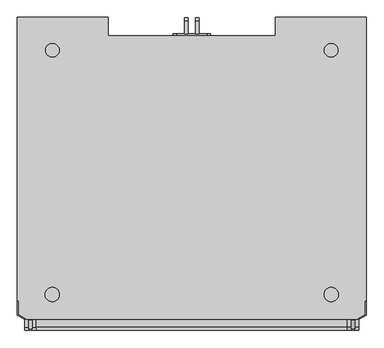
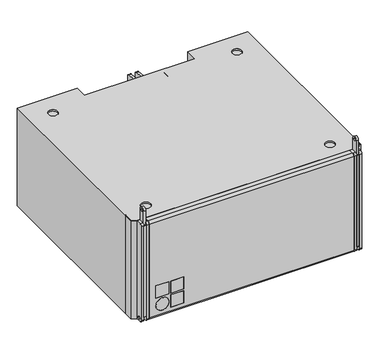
"""IFC4 building model written with IfcOpenShell, lengths in millimetres: proxy geometry, d&b SL-Series KSLi-SUB : KSLi-SUB."""

from ifc_helpers import new_model, si_unit, point, frame, frame_2d, origin, origin_with_axes, place, context, project, spatial, polyline, circle_curve, trimmed, segment, composite_curve, outline, extrude, source, transform, mapped, element, save
from ifc_brep_helpers import plane_surface, cylinder_surface, revolved_surface, advanced_brep


def communication_devices_f4fcb6de(model_context):
    return source(origin(), model_context, "Body", "SolidModel", [
        extrude(outline(polyline([(2084.5, -246.9994027), (2140.5, -246.9994027), (2140.5, -256.9994027), (2084.5, -256.9994027), (2084.5, -246.9994027)])), frame((0.0, 0.0, 90.5), z_axis=(0.0, 0.0, 1.0), x_axis=(1.0, 0.0, 0.0)), (0.0, 0.0, 1.0), 56.0),
        extrude(outline(polyline([(2148.5, -246.9994027), (2204.5, -246.9994027), (2204.5, -256.9994027), (2148.5, -256.9994027), (2148.5, -246.9994027)])), frame((0.0, 0.0, 90.5), z_axis=(0.0, 0.0, 1.0), x_axis=(1.0, 0.0, 0.0)), (0.0, 0.0, 1.0), 56.0),
        extrude(outline(polyline([(2148.5, -246.9994027), (2204.5, -246.9994027), (2204.5, -256.9994027), (2148.5, -256.9994027), (2148.5, -246.9994027)])), frame((0.0, 0.0, 26.5), z_axis=(0.0, 0.0, 1.0), x_axis=(1.0, 0.0, 0.0)), (0.0, 0.0, 1.0), 56.0),
        extrude(outline(composite_curve([segment(trimmed(circle_curve(frame_2d((54.5, 2112.5)), 28.0), [point((54.5, 2084.5))], [point((54.5, 2140.5))], False, "CARTESIAN"), True, "CONTINUOUS"), segment(trimmed(circle_curve(frame_2d((54.5, 2112.5)), 28.0), [point((54.5, 2140.5))], [point((54.5, 2084.5))], False, "CARTESIAN"), True, "CONTINUOUS")], self_intersect=False)), frame((0.0, -256.9994027, 0.0), z_axis=(0.0, 1.0, 0.0), x_axis=(0.0, 0.0, 1.0)), (0.0, 0.0, 1.0), 10.0),
        advanced_brep(
        [(3000.0, -171.9994027, 450.0), (3000.0, 639.2505973, 450.0), (2740.0, 639.2505973, 450.0), (2740.0, 586.2505973, 450.0), (2260.0, 586.2505973, 450.0), (2260.0, 639.2505973, 450.0), (2000.0, 639.2505973, 450.0), (2000.0, -171.9994027, 450.0), (2003.0, -171.9994027, 450.0), (2003.0, -211.9316714, 450.0), (2023.5, -223.7673519, 450.0), (2023.5, -225.4994027, 450.0), (2976.5, -225.4994027, 450.0), (2976.5, -223.7673519, 450.0), (2997.0, -211.9316714, 450.0), (2997.0, -171.9994027, 450.0), (2080.7290498, 545.3281728, 450.0), (2119.5480947, 545.3281728, 450.0), (2079.3260723, -154.6718272, 450.0), (2120.3260723, -154.6718272, 450.0), (2919.2709502, 545.3281728, 450.0), (2880.4519053, 545.3281728, 450.0), (2920.6739277, -154.6718272, 450.0), (2879.6739277, -154.6718272, 450.0), (2976.5, -225.4994027, 0.0), (2023.5, -225.4994027, 0.0), (3000.0, 639.2505973, 0.0), (2740.0, 639.2505973, 0.0), (2808.0, 639.2505973, 168.0), (2816.0, 639.2505973, 160.0), (2860.0, 639.2505973, 160.0), (2868.0, 639.2505973, 168.0), (2868.0, 639.2505973, 282.0), (2860.0, 639.2505973, 290.0), (2816.0, 639.2505973, 290.0), (2808.0, 639.2505973, 282.0), (2740.0, 586.2505973, 0.0), (2740.0, 586.2505973, 17.4568966), (2740.0, 561.2505973, 17.4568966), (2740.0, 561.2505973, 152.0689655), (2740.0, 586.2505973, 152.0689655), (2740.0, 586.2505973, 157.887931), (2740.0, 561.2505973, 157.887931), (2740.0, 561.2505973, 292.112069), (2740.0, 586.2505973, 292.112069), (2740.0, 586.2505973, 297.9310345), (2740.0, 561.2505973, 297.9310345), (2740.0, 561.2505973, 432.5431034), (2740.0, 586.2505973, 432.5431034), (2607.8420876, 561.2505973, 17.4568966), (2708.4158183, 561.2505973, 152.0689655), (2705.4996607, 561.2505973, 157.887931), (2604.92593, 561.2505973, 23.2758621), (2554.0, 561.2505973, 23.2758621), (2554.0, 561.2505973, 426.7241379), (2604.92593, 561.2505973, 426.7241379), (2705.4996607, 561.2505973, 292.112069), (2708.4158183, 561.2505973, 297.9310345), (2607.8420876, 561.2505973, 432.5431034), (2260.0, 561.2505973, 297.9310345), (2260.0, 561.2505973, 432.5431034), (2392.1579124, 561.2505973, 432.5431034), (2291.5841817, 561.2505973, 297.9310345), (2260.0, 561.2505973, 157.887931), (2260.0, 561.2505973, 292.112069), (2294.5003393, 561.2505973, 292.112069), (2395.07407, 561.2505973, 426.7241379), (2446.0, 561.2505973, 426.7241379), (2446.0, 561.2505973, 23.2758621), (2395.07407, 561.2505973, 23.2758621), (2294.5003393, 561.2505973, 157.887931), (2260.0, 561.2505973, 17.4568966), (2260.0, 561.2505973, 152.0689655), (2291.5841817, 561.2505973, 152.0689655), (2392.1579124, 561.2505973, 17.4568966), (2260.0, 639.2505973, 0.0), (2260.0, 586.2505973, 432.5431034), (2260.0, 586.2505973, 297.9310345), (2260.0, 586.2505973, 292.112069), (2260.0, 586.2505973, 157.887931), (2260.0, 586.2505973, 152.0689655), (2260.0, 586.2505973, 17.4568966), (2260.0, 586.2505973, 0.0), (2000.0, 639.2505973, 0.0), (2184.0, 639.2505973, 160.0), (2192.0, 639.2505973, 168.0), (2192.0, 639.2505973, 282.0), (2184.0, 639.2505973, 290.0), (2140.0, 639.2505973, 290.0), (2132.0, 639.2505973, 282.0), (2132.0, 639.2505973, 168.0), (2140.0, 639.2505973, 160.0), (2080.7290498, 545.3281728, 444.0), (2119.5480947, 545.3281728, 444.0), (2079.3260723, -154.6718272, 444.0), (2120.3260723, -154.6718272, 444.0), (2919.2709502, 545.3281728, 444.0), (2880.4519053, 545.3281728, 444.0), (2920.6739277, -154.6718272, 444.0), (2879.6739277, -154.6718272, 444.0), (2080.7290498, 545.3281728, 6.0), (2119.5480947, 545.3281728, 6.0), (2079.3260723, -154.6718272, 6.0), (2120.3260723, -154.6718272, 6.0), (2919.2709502, 545.3281728, 6.0), (2880.4519053, 545.3281728, 6.0), (2920.6739277, -154.6718272, 6.0), (2879.6739277, -154.6718272, 6.0), (3000.0, -171.9994027, 0.0), (2997.0, -171.9994027, 0.0), (2000.0, -171.9994027, 0.0), (2003.0, -171.9994027, 0.0), (2976.5, -223.7673519, 0.0), (2997.0, -211.9316714, 0.0), (2003.0, -211.9316714, 0.0), (2023.5, -223.7673519, 0.0), (2080.7290498, 545.3281728, 0.0), (2119.5480947, 545.3281728, 0.0), (2079.3260723, -154.6718272, 0.0), (2120.3260723, -154.6718272, 0.0), (2919.2709502, 545.3281728, 0.0), (2880.4519053, 545.3281728, 0.0), (2920.6739277, -154.6718272, 0.0), (2879.6739277, -154.6718272, 0.0), (2607.8420876, 586.2505973, 432.5431034), (2708.4158183, 586.2505973, 297.9310345), (2705.4996607, 586.2505973, 292.112069), (2604.92593, 586.2505973, 426.7241379), (2554.0, 586.2505973, 426.7241379), (2554.0, 586.2505973, 23.2758621), (2604.92593, 586.2505973, 23.2758621), (2705.4996607, 586.2505973, 157.887931), (2708.4158183, 586.2505973, 152.0689655), (2607.8420876, 586.2505973, 17.4568966), (2392.1579124, 586.2505973, 17.4568966), (2291.5841817, 586.2505973, 152.0689655), (2294.5003393, 586.2505973, 157.887931), (2395.07407, 586.2505973, 23.2758621), (2446.0, 586.2505973, 23.2758621), (2446.0, 586.2505973, 426.7241379), (2395.07407, 586.2505973, 426.7241379), (2294.5003393, 586.2505973, 292.112069), (2291.5841817, 586.2505973, 297.9310345), (2392.1579124, 586.2505973, 432.5431034), (2192.0, 634.2505973, 168.0), (2184.0, 634.2505973, 160.0), (2140.0, 634.2505973, 160.0), (2132.0, 634.2505973, 168.0), (2132.0, 634.2505973, 282.0), (2140.0, 634.2505973, 290.0), (2184.0, 634.2505973, 290.0), (2192.0, 634.2505973, 282.0), (2818.0, 619.2505973, 280.0), (2858.0, 619.2505973, 280.0), (2858.0, 619.2505973, 170.0), (2818.0, 619.2505973, 170.0), (2818.0, 634.2505973, 280.0), (2858.0, 634.2505973, 280.0), (2858.0, 634.2505973, 170.0), (2818.0, 634.2505973, 170.0), (2808.0, 634.2505973, 168.0), (2808.0, 634.2505973, 282.0), (2816.0, 634.2505973, 290.0), (2860.0, 634.2505973, 290.0), (2868.0, 634.2505973, 282.0), (2868.0, 634.2505973, 168.0), (2860.0, 634.2505973, 160.0), (2816.0, 634.2505973, 160.0)],
        [
            (0, 1),
            (1, 2),
            (2, 3),
            (3, 4),
            (4, 5),
            (5, 6),
            (6, 7),
            (7, 8),
            (8, 9),
            (9, 10),
            (10, 11),
            (11, 12),
            (12, 13),
            (13, 14),
            (14, 15),
            (15, 0),
            (16, 17, circle_curve(frame((2100.1385723, 545.3281728, 450.0), z_axis=(0.0, 0.0, -1.0), x_axis=(1.0, 0.0, 0.0)), 19.4095225)),
            (17, 16, circle_curve(frame((2100.1385723, 545.3281728, 450.0), z_axis=(0.0, 0.0, -1.0), x_axis=(1.0, 0.0, 0.0)), 19.4095225)),
            (18, 19, circle_curve(frame((2099.8260723, -154.6718272, 450.0), z_axis=(0.0, 0.0, -1.0), x_axis=(1.0, 0.0, 0.0)), 20.5)),
            (19, 18, circle_curve(frame((2099.8260723, -154.6718272, 450.0), z_axis=(0.0, 0.0, -1.0), x_axis=(1.0, 0.0, 0.0)), 20.5)),
            (20, 21, circle_curve(frame((2899.8614277, 545.3281728, 450.0), z_axis=(0.0, 0.0, -1.0), x_axis=(-1.0, 0.0, 0.0)), 19.4095225)),
            (21, 20, circle_curve(frame((2899.8614277, 545.3281728, 450.0), z_axis=(0.0, 0.0, -1.0), x_axis=(-1.0, 0.0, 0.0)), 19.4095225)),
            (22, 23, circle_curve(frame((2900.1739277, -154.6718272, 450.0), z_axis=(0.0, 0.0, -1.0), x_axis=(-1.0, 0.0, 0.0)), 20.5)),
            (23, 22, circle_curve(frame((2900.1739277, -154.6718272, 450.0), z_axis=(0.0, 0.0, -1.0), x_axis=(-1.0, 0.0, 0.0)), 20.5)),
            (24, 12),
            (11, 25),
            (25, 24),
            (1, 26),
            (26, 27),
            (27, 2),
            (28, 29, circle_curve(frame((2816.0, 639.2505973, 168.0), z_axis=(0.0, -1.0, 0.0), x_axis=(-1.0, 0.0, 0.0)), 8.0)),
            (29, 30),
            (30, 31, circle_curve(frame((2860.0, 639.2505973, 168.0), z_axis=(0.0, -1.0, 0.0), x_axis=(-1.0, 0.0, 0.0)), 8.0)),
            (31, 32),
            (32, 33, circle_curve(frame((2860.0, 639.2505973, 282.0), z_axis=(0.0, -1.0, 0.0), x_axis=(-1.0, 0.0, 0.0)), 8.0)),
            (33, 34),
            (34, 35, circle_curve(frame((2816.0, 639.2505973, 282.0), z_axis=(0.0, -1.0, 0.0), x_axis=(-1.0, 0.0, 0.0)), 8.0)),
            (35, 28),
            (27, 36),
            (36, 37),
            (37, 38),
            (38, 39),
            (39, 40),
            (40, 41),
            (41, 42),
            (42, 43),
            (43, 44),
            (44, 45),
            (45, 46),
            (46, 47),
            (47, 48),
            (48, 3),
            (38, 49),
            (49, 50),
            (50, 39),
            (42, 51),
            (51, 52),
            (52, 53),
            (53, 54),
            (54, 55),
            (55, 56),
            (56, 43),
            (46, 57),
            (57, 58),
            (58, 47),
            (59, 60),
            (60, 61),
            (61, 62),
            (62, 59),
            (63, 64),
            (64, 65),
            (65, 66),
            (66, 67),
            (67, 68),
            (68, 69),
            (69, 70),
            (70, 63),
            (71, 72),
            (72, 73),
            (73, 74),
            (74, 71),
            (75, 5),
            (4, 76),
            (76, 60),
            (59, 77),
            (77, 78),
            (78, 64),
            (63, 79),
            (79, 80),
            (80, 72),
            (71, 81),
            (81, 82),
            (82, 75),
            (83, 6),
            (75, 83),
            (84, 85, circle_curve(frame((2184.0, 639.2505973, 168.0), z_axis=(0.0, -1.0, 0.0), x_axis=(1.0, 0.0, 0.0)), 8.0)),
            (85, 86),
            (86, 87, circle_curve(frame((2184.0, 639.2505973, 282.0), z_axis=(0.0, -1.0, 0.0), x_axis=(1.0, 0.0, 0.0)), 8.0)),
            (87, 88),
            (88, 89, circle_curve(frame((2140.0, 639.2505973, 282.0), z_axis=(0.0, -1.0, 0.0), x_axis=(1.0, 0.0, 0.0)), 8.0)),
            (89, 90),
            (90, 91, circle_curve(frame((2140.0, 639.2505973, 168.0), z_axis=(0.0, -1.0, 0.0), x_axis=(1.0, 0.0, 0.0)), 8.0)),
            (91, 84),
            (16, 92),
            (92, 93, circle_curve(frame((2100.1385723, 545.3281728, 444.0), z_axis=(0.0, 0.0, -1.0), x_axis=(1.0, 0.0, 0.0)), 19.4095225)),
            (93, 17),
            (93, 92, circle_curve(frame((2100.1385723, 545.3281728, 444.0), z_axis=(0.0, 0.0, -1.0), x_axis=(1.0, 0.0, 0.0)), 19.4095225)),
            (18, 94),
            (94, 95, circle_curve(frame((2099.8260723, -154.6718272, 444.0), z_axis=(0.0, 0.0, -1.0), x_axis=(1.0, 0.0, 0.0)), 20.5)),
            (95, 19),
            (95, 94, circle_curve(frame((2099.8260723, -154.6718272, 444.0), z_axis=(0.0, 0.0, -1.0), x_axis=(1.0, 0.0, 0.0)), 20.5)),
            (20, 96),
            (96, 97, circle_curve(frame((2899.8614277, 545.3281728, 444.0), z_axis=(0.0, 0.0, -1.0), x_axis=(-1.0, 0.0, 0.0)), 19.4095225)),
            (97, 21),
            (97, 96, circle_curve(frame((2899.8614277, 545.3281728, 444.0), z_axis=(0.0, 0.0, -1.0), x_axis=(-1.0, 0.0, 0.0)), 19.4095225)),
            (22, 98),
            (98, 99, circle_curve(frame((2900.1739277, -154.6718272, 444.0), z_axis=(0.0, 0.0, -1.0), x_axis=(-1.0, 0.0, 0.0)), 20.5)),
            (99, 23),
            (99, 98, circle_curve(frame((2900.1739277, -154.6718272, 444.0), z_axis=(0.0, 0.0, -1.0), x_axis=(-1.0, 0.0, 0.0)), 20.5)),
            (100, 101, circle_curve(frame((2100.1385723, 545.3281728, 6.0), z_axis=(0.0, 0.0, -1.0), x_axis=(1.0, 0.0, 0.0)), 19.4095225)),
            (101, 100, circle_curve(frame((2100.1385723, 545.3281728, 6.0), z_axis=(0.0, 0.0, -1.0), x_axis=(1.0, 0.0, 0.0)), 19.4095225)),
            (102, 103, circle_curve(frame((2099.8260723, -154.6718272, 6.0), z_axis=(0.0, 0.0, -1.0), x_axis=(1.0, 0.0, 0.0)), 20.5)),
            (103, 102, circle_curve(frame((2099.8260723, -154.6718272, 6.0), z_axis=(0.0, 0.0, -1.0), x_axis=(1.0, 0.0, 0.0)), 20.5)),
            (104, 105, circle_curve(frame((2899.8614277, 545.3281728, 6.0), z_axis=(0.0, 0.0, -1.0), x_axis=(-1.0, 0.0, 0.0)), 19.4095225)),
            (105, 104, circle_curve(frame((2899.8614277, 545.3281728, 6.0), z_axis=(0.0, 0.0, -1.0), x_axis=(-1.0, 0.0, 0.0)), 19.4095225)),
            (106, 107, circle_curve(frame((2900.1739277, -154.6718272, 6.0), z_axis=(0.0, 0.0, -1.0), x_axis=(-1.0, 0.0, 0.0)), 20.5)),
            (107, 106, circle_curve(frame((2900.1739277, -154.6718272, 6.0), z_axis=(0.0, 0.0, -1.0), x_axis=(-1.0, 0.0, 0.0)), 20.5)),
            (0, 108),
            (108, 26),
            (15, 109),
            (109, 108),
            (83, 110),
            (110, 7),
            (110, 111),
            (111, 8),
            (24, 112),
            (112, 13),
            (112, 113),
            (113, 14),
            (113, 109),
            (111, 114),
            (114, 9),
            (114, 115),
            (115, 10),
            (115, 25),
            (82, 36),
            (116, 117, circle_curve(frame((2100.1385723, 545.3281728, 0.0), z_axis=(0.0, 0.0, 1.0), x_axis=(1.0, 0.0, 0.0)), 19.4095225)),
            (117, 116, circle_curve(frame((2100.1385723, 545.3281728, 0.0), z_axis=(0.0, 0.0, 1.0), x_axis=(1.0, 0.0, 0.0)), 19.4095225)),
            (118, 119, circle_curve(frame((2099.8260723, -154.6718272, 0.0), z_axis=(0.0, 0.0, 1.0), x_axis=(1.0, 0.0, 0.0)), 20.5)),
            (119, 118, circle_curve(frame((2099.8260723, -154.6718272, 0.0), z_axis=(0.0, 0.0, 1.0), x_axis=(1.0, 0.0, 0.0)), 20.5)),
            (120, 121, circle_curve(frame((2899.8614277, 545.3281728, 0.0), z_axis=(0.0, 0.0, 1.0), x_axis=(-1.0, 0.0, 0.0)), 19.4095225)),
            (121, 120, circle_curve(frame((2899.8614277, 545.3281728, 0.0), z_axis=(0.0, 0.0, 1.0), x_axis=(-1.0, 0.0, 0.0)), 19.4095225)),
            (122, 123, circle_curve(frame((2900.1739277, -154.6718272, 0.0), z_axis=(0.0, 0.0, 1.0), x_axis=(-1.0, 0.0, 0.0)), 20.5)),
            (123, 122, circle_curve(frame((2900.1739277, -154.6718272, 0.0), z_axis=(0.0, 0.0, 1.0), x_axis=(-1.0, 0.0, 0.0)), 20.5)),
            (117, 101),
            (100, 116),
            (119, 103),
            (102, 118),
            (121, 105),
            (104, 120),
            (123, 107),
            (106, 122),
            (48, 124),
            (124, 125),
            (125, 45),
            (44, 126),
            (126, 127),
            (127, 128),
            (128, 129),
            (129, 130),
            (130, 131),
            (131, 41),
            (40, 132),
            (132, 133),
            (133, 37),
            (81, 134),
            (134, 135),
            (135, 80),
            (79, 136),
            (136, 137),
            (137, 138),
            (138, 139),
            (139, 140),
            (140, 141),
            (141, 78),
            (77, 142),
            (142, 143),
            (143, 76),
            (125, 57),
            (124, 58),
            (128, 54),
            (53, 129),
            (56, 126),
            (55, 127),
            (52, 130),
            (51, 131),
            (132, 50),
            (49, 133),
            (74, 134),
            (73, 135),
            (70, 136),
            (69, 137),
            (68, 138),
            (67, 139),
            (66, 140),
            (65, 141),
            (62, 142),
            (61, 143),
            (144, 145, circle_curve(frame((2184.0, 634.2505973, 168.0), z_axis=(0.0, 1.0, 0.0), x_axis=(1.0, 0.0, 0.0)), 8.0)),
            (145, 146),
            (146, 147, circle_curve(frame((2140.0, 634.2505973, 168.0), z_axis=(0.0, 1.0, 0.0), x_axis=(1.0, 0.0, 0.0)), 8.0)),
            (147, 148),
            (148, 149, circle_curve(frame((2140.0, 634.2505973, 282.0), z_axis=(0.0, 1.0, 0.0), x_axis=(1.0, 0.0, 0.0)), 8.0)),
            (149, 150),
            (150, 151, circle_curve(frame((2184.0, 634.2505973, 282.0), z_axis=(0.0, 1.0, 0.0), x_axis=(1.0, 0.0, 0.0)), 8.0)),
            (151, 144),
            (144, 85),
            (84, 145),
            (91, 146),
            (90, 147),
            (89, 148),
            (88, 149),
            (87, 150),
            (86, 151),
            (152, 153),
            (153, 154),
            (154, 155),
            (155, 152),
            (152, 156),
            (156, 157),
            (157, 153),
            (157, 158),
            (158, 154),
            (158, 159),
            (159, 155),
            (159, 156),
            (160, 161),
            (161, 162, circle_curve(frame((2816.0, 634.2505973, 282.0), z_axis=(0.0, 1.0, 0.0), x_axis=(-1.0, 0.0, 0.0)), 8.0)),
            (162, 163),
            (163, 164, circle_curve(frame((2860.0, 634.2505973, 282.0), z_axis=(0.0, 1.0, 0.0), x_axis=(-1.0, 0.0, 0.0)), 8.0)),
            (164, 165),
            (165, 166, circle_curve(frame((2860.0, 634.2505973, 168.0), z_axis=(0.0, 1.0, 0.0), x_axis=(-1.0, 0.0, 0.0)), 8.0)),
            (166, 167),
            (167, 160, circle_curve(frame((2816.0, 634.2505973, 168.0), z_axis=(0.0, 1.0, 0.0), x_axis=(-1.0, 0.0, 0.0)), 8.0)),
            (167, 29),
            (28, 160),
            (166, 30),
            (165, 31),
            (164, 32),
            (163, 33),
            (162, 34),
            (161, 35),
        ],
        [
            plane_surface(frame((2930.0, -225.4994027, 450.0), z_axis=(0.0, 0.0, 1.0), x_axis=(0.0, 1.0, 0.0))),
            plane_surface(frame((2070.0, -225.4994027, 450.0), z_axis=(0.0, -1.0, 0.0), x_axis=(0.0, 0.0, -1.0))),
            plane_surface(frame((2930.0, 639.2505973, 450.0), z_axis=(0.0, 1.0, 0.0), x_axis=(0.0, 0.0, -1.0))),
            plane_surface(frame((2740.0, 639.2505973, 450.0), z_axis=(-1.0, 0.0, 0.0), x_axis=(0.0, 0.0, -1.0))),
            plane_surface(frame((2740.0, 561.2505973, 450.0), z_axis=(0.0, 1.0, 0.0), x_axis=(0.0, 0.0, -1.0))),
            plane_surface(frame((2260.0, 561.2505973, 450.0), z_axis=(1.0, 0.0, 0.0), x_axis=(0.0, 0.0, -1.0))),
            plane_surface(frame((2260.0, 639.2505973, 450.0), z_axis=(0.0, 1.0, 0.0), x_axis=(0.0, 0.0, -1.0))),
            revolved_surface(polyline([(2119.5480948, 545.3281728, 444.0), (2119.5480948, 545.3281728, 450.0)]), (2100.1385723, 545.3281728, 475.0), (0.0, 0.0, -1.0)),
            revolved_surface(polyline([(2120.3260723, -154.6718272, 444.0), (2120.3260723, -154.6718272, 450.0)]), (2099.8260723, -154.6718272, 475.0), (0.0, 0.0, -1.0)),
            revolved_surface(polyline([(2880.4519052, 545.3281728, 444.0), (2880.4519052, 545.3281728, 450.0)]), (2899.8614277, 545.3281728, 475.0), (0.0, 0.0, -1.0)),
            revolved_surface(polyline([(2879.6739277, -154.6718272, 444.0), (2879.6739277, -154.6718272, 450.0)]), (2900.1739277, -154.6718272, 475.0), (0.0, 0.0, -1.0)),
            plane_surface(frame((2930.0, -225.4994027, 6.0), z_axis=(0.0, 0.0, -1.0), x_axis=(0.0, -1.0, 0.0))),
            plane_surface(frame((2930.0, -225.4994027, 444.0), z_axis=(0.0, 0.0, 1.0), x_axis=(0.0, 1.0, 0.0))),
            plane_surface(frame((3000.0, 960.0005973, 450.0), z_axis=(1.0, 0.0, 0.0), x_axis=(0.0, -1.0, 0.0))),
            plane_surface(frame((2930.0, -171.9994027, 0.0), z_axis=(0.0, -1.0, 0.0), x_axis=(1.0, 0.0, 0.0))),
            plane_surface(frame((2000.0, -171.9994027, -79.8), z_axis=(-1.0, 0.0, 0.0), x_axis=(0.0, 0.0, 1.0))),
            plane_surface(frame((2070.0, -171.9994027, 450.0), z_axis=(0.0, -1.0, 0.0), x_axis=(-1.0, 0.0, 0.0))),
            plane_surface(frame((2976.5, -225.4994027, 450.0), z_axis=(1.0, 0.0, 0.0), x_axis=(0.0, 0.0, -1.0))),
            plane_surface(frame((2976.5, -223.7673519, 450.0), z_axis=(0.4999999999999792, -0.8660254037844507, 0.0), x_axis=(0.0, 0.0, -1.0))),
            plane_surface(frame((2997.0, -211.9316714, 450.0), z_axis=(1.0, 0.0, 0.0), x_axis=(0.0, 0.0, -1.0))),
            plane_surface(frame((2003.0, -171.9994027, 450.0), z_axis=(-1.0, 0.0, 0.0), x_axis=(0.0, 0.0, -1.0))),
            plane_surface(frame((2003.0, -211.9316714, 450.0), z_axis=(-0.4999999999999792, -0.8660254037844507, 0.0), x_axis=(0.0, 0.0, -1.0))),
            plane_surface(frame((2023.5, -223.7673519, 450.0), z_axis=(-1.0, 0.0, 0.0), x_axis=(0.0, 0.0, -1.0))),
            plane_surface(frame((2930.0, 639.2505973, 0.0), z_axis=(0.0, 0.0, -1.0), x_axis=(1.0, 0.0, 0.0))),
            revolved_surface(polyline([(2119.5480948, 545.3281728, 0.0), (2119.5480948, 545.3281728, 6.0)]), (2100.1385723, 545.3281728, -85.0), (0.0, 0.0, -1.0)),
            revolved_surface(polyline([(2120.3260723, -154.6718272, 0.0), (2120.3260723, -154.6718272, 6.0)]), (2099.8260723, -154.6718272, -85.0), (0.0, 0.0, -1.0)),
            revolved_surface(polyline([(2880.4519052, 545.3281728, 0.0), (2880.4519052, 545.3281728, 6.0)]), (2899.8614277, 545.3281728, -85.0), (0.0, 0.0, -1.0)),
            revolved_surface(polyline([(2879.6739277, -154.6718272, 0.0), (2879.6739277, -154.6718272, 6.0)]), (2900.1739277, -154.6718272, -85.0), (0.0, 0.0, -1.0)),
            plane_surface(frame((2740.0, 586.2505973, -132.4784483), z_axis=(0.0, 1.0, 0.0), x_axis=(0.0, 0.0, -1.0))),
            plane_surface(frame((2708.4158183, 586.2505973, 297.9310345), z_axis=(0.0, 0.0, 1.0), x_axis=(0.0, -1.0, 0.0))),
            plane_surface(frame((2607.8420876, 586.2505973, 432.5431034), z_axis=(0.8010993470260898, 0.0, 0.598531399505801), x_axis=(0.0, -1.0, 0.0))),
            plane_surface(frame((2554.0, 586.2505973, 426.7241379), z_axis=(1.0, 0.0, 0.0), x_axis=(0.0, -1.0, 0.0))),
            plane_surface(frame((2740.0, 586.2505973, 292.112069), z_axis=(0.0, 0.0, -1.0), x_axis=(0.0, -1.0, 0.0))),
            plane_surface(frame((2705.4996607, 586.2505973, 292.112069), z_axis=(-0.801099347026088, 0.0, -0.5985313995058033), x_axis=(0.0, -1.0, 0.0))),
            plane_surface(frame((2604.92593, 586.2505973, 426.7241379), z_axis=(0.0, 0.0, -1.0), x_axis=(0.0, -1.0, 0.0))),
            plane_surface(frame((2554.0, 586.2505973, 23.2758621), z_axis=(0.0, 0.0, 1.0), x_axis=(0.0, -1.0, 0.0))),
            plane_surface(frame((2604.92593, 586.2505973, 23.2758621), z_axis=(-0.8010993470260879, 0.0, 0.5985313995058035), x_axis=(0.0, -1.0, 0.0))),
            plane_surface(frame((2705.4996607, 586.2505973, 157.887931), z_axis=(0.0, 0.0, 1.0), x_axis=(0.0, -1.0, 0.0))),
            plane_surface(frame((2740.0, 586.2505973, 432.5431034), z_axis=(0.0, 0.0, -1.0), x_axis=(0.0, -1.0, 0.0))),
            plane_surface(frame((2708.4158183, 586.2505973, 152.0689655), z_axis=(0.8010993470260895, 0.0, -0.5985313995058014), x_axis=(0.0, -1.0, 0.0))),
            plane_surface(frame((2607.8420876, 586.2505973, 17.4568966), z_axis=(0.0, 0.0, 1.0), x_axis=(0.0, -1.0, 0.0))),
            plane_surface(frame((2740.0, 586.2505973, 152.0689655), z_axis=(0.0, 0.0, -1.0), x_axis=(0.0, -1.0, 0.0))),
            plane_surface(frame((2260.0, 586.2505973, 17.4568966), z_axis=(0.0, 0.0, 1.0), x_axis=(0.0, -1.0, 0.0))),
            plane_surface(frame((2392.1579124, 586.2505973, 17.4568966), z_axis=(-0.8010993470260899, 0.0, -0.5985313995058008), x_axis=(0.0, -1.0, 0.0))),
            plane_surface(frame((2291.5841817, 586.2505973, 152.0689655), z_axis=(0.0, 0.0, -1.0), x_axis=(0.0, -1.0, 0.0))),
            plane_surface(frame((2260.0, 586.2505973, 157.887931), z_axis=(0.0, 0.0, 1.0), x_axis=(0.0, -1.0, 0.0))),
            plane_surface(frame((2294.5003393, 586.2505973, 157.887931), z_axis=(0.8010993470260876, 0.0, 0.5985313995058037), x_axis=(0.0, -1.0, 0.0))),
            plane_surface(frame((2395.07407, 586.2505973, 23.2758621), z_axis=(0.0, 0.0, 1.0), x_axis=(0.0, -1.0, 0.0))),
            plane_surface(frame((2446.0, 586.2505973, 23.2758621), z_axis=(-1.0, 0.0, 0.0), x_axis=(0.0, -1.0, 0.0))),
            plane_surface(frame((2446.0, 586.2505973, 426.7241379), z_axis=(0.0, 0.0, -1.0), x_axis=(0.0, -1.0, 0.0))),
            plane_surface(frame((2395.07407, 586.2505973, 426.7241379), z_axis=(0.8010993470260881, 0.0, -0.5985313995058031), x_axis=(0.0, -1.0, 0.0))),
            plane_surface(frame((2294.5003393, 586.2505973, 292.112069), z_axis=(0.0, 0.0, -1.0), x_axis=(0.0, -1.0, 0.0))),
            plane_surface(frame((2260.0, 586.2505973, 297.9310345), z_axis=(0.0, 0.0, 1.0), x_axis=(0.0, -1.0, 0.0))),
            plane_surface(frame((2291.5841817, 586.2505973, 297.9310345), z_axis=(-0.8010993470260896, 0.0, 0.5985313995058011), x_axis=(0.0, -1.0, 0.0))),
            plane_surface(frame((2392.1579124, 586.2505973, 432.5431034), z_axis=(0.0, 0.0, -1.0), x_axis=(0.0, -1.0, 0.0))),
            plane_surface(frame((2192.0, 634.2505973, 292.0), z_axis=(0.0, 1.0, 0.0), x_axis=(0.0, 0.0, 1.0))),
            revolved_surface(polyline([(2192.0, 634.2505973, 168.0), (2192.0, 639.2505973, 168.0)]), (2184.0, 639.2505973, 168.0), (0.0, -1.0, 0.0)),
            plane_surface(frame((2140.0, 634.2505973, 160.0), z_axis=(0.0, 0.0, 1.0), x_axis=(0.0, 1.0, 0.0))),
            revolved_surface(polyline([(2148.0, 634.2505973, 168.0), (2148.0, 639.2505973, 168.0)]), (2140.0, 639.2505973, 168.0), (0.0, -1.0, 0.0)),
            plane_surface(frame((2132.0, 634.2505973, 282.0), z_axis=(1.0, 0.0, 0.0), x_axis=(0.0, 1.0, 0.0))),
            revolved_surface(polyline([(2148.0, 634.2505973, 282.0), (2148.0, 639.2505973, 282.0)]), (2140.0, 639.2505973, 282.0), (0.0, -1.0, 0.0)),
            plane_surface(frame((2184.0, 634.2505973, 290.0), z_axis=(0.0, 0.0, -1.0), x_axis=(0.0, 1.0, 0.0))),
            revolved_surface(polyline([(2192.0, 634.2505973, 282.0), (2192.0, 639.2505973, 282.0)]), (2184.0, 639.2505973, 282.0), (0.0, -1.0, 0.0)),
            plane_surface(frame((2192.0, 634.2505973, 168.0), z_axis=(-1.0, 0.0, 0.0), x_axis=(0.0, 1.0, 0.0))),
            plane_surface(frame((2818.0, 619.2505973, 292.0), z_axis=(0.0, 1.0, 0.0), x_axis=(0.0, 0.0, -1.0))),
            plane_surface(frame((2858.0, 619.2505973, 280.0), z_axis=(0.0, 0.0, -1.0), x_axis=(0.0, 1.0, 0.0))),
            plane_surface(frame((2858.0, 619.2505973, 170.0), z_axis=(-1.0, 0.0, 0.0), x_axis=(0.0, 1.0, 0.0))),
            plane_surface(frame((2818.0, 619.2505973, 170.0), z_axis=(0.0, 0.0, 1.0), x_axis=(0.0, 1.0, 0.0))),
            plane_surface(frame((2818.0, 619.2505973, 280.0), z_axis=(1.0, 0.0, 0.0), x_axis=(0.0, 1.0, 0.0))),
            plane_surface(frame((2808.0, 634.2505973, 168.0), z_axis=(0.0, 1.0, 0.0), x_axis=(0.0, 0.0, -1.0))),
            revolved_surface(polyline([(2808.0, 634.2505973, 168.0), (2808.0, 639.2505973, 168.0)]), (2816.0, 639.2505973, 168.0), (0.0, -1.0, 0.0)),
            plane_surface(frame((2816.0, 634.2505973, 160.0), z_axis=(0.0, 0.0, 1.0), x_axis=(0.0, 1.0, 0.0))),
            revolved_surface(polyline([(2852.0, 634.2505973, 168.0), (2852.0, 639.2505973, 168.0)]), (2860.0, 639.2505973, 168.0), (0.0, -1.0, 0.0)),
            plane_surface(frame((2868.0, 634.2505973, 168.0), z_axis=(-1.0, 0.0, 0.0), x_axis=(0.0, 1.0, 0.0))),
            revolved_surface(polyline([(2852.0, 634.2505973, 282.0), (2852.0, 639.2505973, 282.0)]), (2860.0, 639.2505973, 282.0), (0.0, -1.0, 0.0)),
            plane_surface(frame((2860.0, 634.2505973, 290.0), z_axis=(0.0, 0.0, -1.0), x_axis=(0.0, 1.0, 0.0))),
            revolved_surface(polyline([(2808.0, 634.2505973, 282.0), (2808.0, 639.2505973, 282.0)]), (2816.0, 639.2505973, 282.0), (0.0, -1.0, 0.0)),
            plane_surface(frame((2808.0, 634.2505973, 282.0), z_axis=(1.0, 0.0, 0.0), x_axis=(0.0, 1.0, 0.0))),
        ],
        [
            (0, [[1, 2, 3, 4, 5, 6, 7, 8, 9, 10, 11, 12, 13, 14, 15, 16], [17, 18], [19, 20], [21, 22], [23, 24]]),
            (1, [[25, -12, 26, 27]]),
            (2, [[28, 29, 30, -2], [31, 32, 33, 34, 35, 36, 37, 38]]),
            (3, [[-30, 39, 40, 41, 42, 43, 44, 45, 46, 47, 48, 49, 50, 51, 52, -3]]),
            (4, [[-42, 53, 54, 55]]),
            (4, [[-46, 56, 57, 58, 59, 60, 61, 62]]),
            (4, [[-50, 63, 64, 65]]),
            (4, [[66, 67, 68, 69]]),
            (4, [[70, 71, 72, 73, 74, 75, 76, 77]]),
            (4, [[78, 79, 80, 81]]),
            (5, [[82, -5, 83, 84, -66, 85, 86, 87, -70, 88, 89, 90, -78, 91, 92, 93]]),
            (6, [[94, -6, -82, 95], [96, 97, 98, 99, 100, 101, 102, 103]]),
            (7, [[-17, 104, 105, 106]]),
            (7, [[-18, -106, 107, -104]]),
            (8, [[-19, 108, 109, 110]]),
            (8, [[-20, -110, 111, -108]]),
            (9, [[-21, 112, 113, 114]]),
            (9, [[-22, -114, 115, -112]]),
            (10, [[-23, 116, 117, 118]]),
            (10, [[-24, -118, 119, -116]]),
            (11, [[120, 121]]),
            (11, [[122, 123]]),
            (11, [[124, 125]]),
            (11, [[126, 127]]),
            (12, [[-105, -107]]),
            (12, [[-109, -111]]),
            (12, [[-113, -115]]),
            (12, [[-117, -119]]),
            (13, [[128, 129, -28, -1]]),
            (14, [[-128, -16, 130, 131]]),
            (15, [[-7, -94, 132, 133]]),
            (16, [[-133, 134, 135, -8]]),
            (17, [[-13, -25, 136, 137]]),
            (18, [[-14, -137, 138, 139]]),
            (19, [[-15, -139, 140, -130]]),
            (20, [[-9, -135, 141, 142]]),
            (21, [[-10, -142, 143, 144]]),
            (22, [[-11, -144, 145, -26]]),
            (23, [[-129, -131, -140, -138, -136, -27, -145, -143, -141, -134, -132, -95, -93, 146, -39, -29], [147, 148], [149, 150], [151, 152], [153, 154]]),
            (24, [[-148, 155, -120, 156]]),
            (24, [[-147, -156, -121, -155]]),
            (25, [[-150, 157, -122, 158]]),
            (25, [[-149, -158, -123, -157]]),
            (26, [[-152, 159, -124, 160]]),
            (26, [[-151, -160, -125, -159]]),
            (27, [[-154, 161, -126, 162]]),
            (27, [[-153, -162, -127, -161]]),
            (28, [[163, 164, 165, -48, 166, 167, 168, 169, 170, 171, 172, -44, 173, 174, 175, -40, -146, -92, 176, 177, 178, -89, 179, 180, 181, 182, 183, 184, 185, -86, 186, 187, 188, -83, -4, -52]]),
            (29, [[-165, 189, -63, -49]]),
            (30, [[-164, 190, -64, -189]]),
            (31, [[-169, 191, -59, 192]]),
            (32, [[-166, -47, -62, 193]]),
            (33, [[-167, -193, -61, 194]]),
            (34, [[-168, -194, -60, -191]]),
            (35, [[-170, -192, -58, 195]]),
            (36, [[-171, -195, -57, 196]]),
            (37, [[-172, -196, -56, -45]]),
            (38, [[-163, -51, -65, -190]]),
            (39, [[-174, 197, -54, 198]]),
            (40, [[-175, -198, -53, -41]]),
            (41, [[-173, -43, -55, -197]]),
            (42, [[-176, -91, -81, 199]]),
            (43, [[-177, -199, -80, 200]]),
            (44, [[-178, -200, -79, -90]]),
            (45, [[-179, -88, -77, 201]]),
            (46, [[-180, -201, -76, 202]]),
            (47, [[-181, -202, -75, 203]]),
            (48, [[-182, -203, -74, 204]]),
            (49, [[-183, -204, -73, 205]]),
            (50, [[-184, -205, -72, 206]]),
            (51, [[-185, -206, -71, -87]]),
            (52, [[-186, -85, -69, 207]]),
            (53, [[-187, -207, -68, 208]]),
            (54, [[-188, -208, -67, -84]]),
            (55, [[209, 210, 211, 212, 213, 214, 215, 216]]),
            (56, [[-209, 217, -96, 218]]),
            (57, [[-210, -218, -103, 219]]),
            (58, [[-211, -219, -102, 220]]),
            (59, [[-212, -220, -101, 221]]),
            (60, [[-213, -221, -100, 222]]),
            (61, [[-214, -222, -99, 223]]),
            (62, [[-215, -223, -98, 224]]),
            (63, [[-216, -224, -97, -217]]),
            (64, [[225, 226, 227, 228]]),
            (65, [[-225, 229, 230, 231]]),
            (66, [[-226, -231, 232, 233]]),
            (67, [[-227, -233, 234, 235]]),
            (68, [[-228, -235, 236, -229]]),
            (69, [[237, 238, 239, 240, 241, 242, 243, 244], [-230, -236, -234, -232]]),
            (70, [[-244, 245, -31, 246]]),
            (71, [[-243, 247, -32, -245]]),
            (72, [[-242, 248, -33, -247]]),
            (73, [[-241, 249, -34, -248]]),
            (74, [[-240, 250, -35, -249]]),
            (75, [[-239, 251, -36, -250]]),
            (76, [[-238, 252, -37, -251]]),
            (77, [[-237, -246, -38, -252]]),
        ],
    ),
        extrude(outline(composite_curve([segment(trimmed(circle_curve(frame_2d((168.0, 2816.0)), 8.0), [point((168.0, 2808.0))], [point((160.0, 2816.0))], False, "CARTESIAN"), True, "CONTINUOUS"), segment(polyline([(160.0, 2816.0), (160.0, 2860.0)]), True, "CONTINUOUS"), segment(trimmed(circle_curve(frame_2d((168.0, 2860.0)), 8.0), [point((160.0, 2860.0))], [point((168.0, 2868.0))], False, "CARTESIAN"), True, "CONTINUOUS"), segment(polyline([(168.0, 2868.0), (282.0, 2868.0)]), True, "CONTINUOUS"), segment(trimmed(circle_curve(frame_2d((282.0, 2860.0)), 8.0), [point((282.0, 2868.0))], [point((290.0, 2860.0))], False, "CARTESIAN"), True, "CONTINUOUS"), segment(polyline([(290.0, 2860.0), (290.0, 2816.0)]), True, "CONTINUOUS"), segment(trimmed(circle_curve(frame_2d((282.0, 2816.0)), 8.0), [point((290.0, 2816.0))], [point((282.0, 2808.0))], False, "CARTESIAN"), True, "CONTINUOUS"), segment(polyline([(282.0, 2808.0), (168.0, 2808.0)]), True, "CONTINUOUS")], self_intersect=False), holes=[polyline([(280.0, 2818.0), (280.0, 2858.0), (170.0, 2858.0), (170.0, 2818.0), (280.0, 2818.0)])]), frame((0.0, 634.2505973, 0.0), z_axis=(0.0, 1.0, 0.0), x_axis=(0.0, 0.0, 1.0)), (0.0, 0.0, 1.0), 5.0),
        extrude(outline(composite_curve([segment(polyline([(592.2505973, 6.0437443), (592.2505973, 443.9562557), (628.7087366, 440.7665818)]), True, "CONTINUOUS"), segment(trimmed(circle_curve(frame_2d((628.7087366, 430.7247211)), 10.0418607), [point((628.7087366, 440.7665818))], [point((638.7505973, 430.7247211))], False, "CARTESIAN"), True, "CONTINUOUS"), segment(polyline([(638.7505973, 430.7247211), (638.7505973, 19.2752789)]), True, "CONTINUOUS"), segment(trimmed(circle_curve(frame_2d((628.7505973, 19.2752789)), 10.0), [point((638.7505973, 19.2752789))], [point((629.6221547, 9.3133319))], False, "CARTESIAN"), True, "CONTINUOUS"), segment(polyline([(629.6221547, 9.3133319), (592.2505973, 6.0437443)]), True, "CONTINUOUS")], self_intersect=False)), frame((2478.75, 0.0, 0.0), z_axis=(1.0, 0.0, 0.0), x_axis=(0.0, 1.0, 0.0)), (0.0, 0.0, 1.0), 10.0),
        extrude(outline(composite_curve([segment(polyline([(592.2505973, 6.0437443), (592.2505973, 443.9562557), (628.7087366, 440.7665818)]), True, "CONTINUOUS"), segment(trimmed(circle_curve(frame_2d((628.7087366, 430.7247211)), 10.0418607), [point((628.7087366, 440.7665818))], [point((638.7505973, 430.7247211))], False, "CARTESIAN"), True, "CONTINUOUS"), segment(polyline([(638.7505973, 430.7247211), (638.7505973, 19.2752789)]), True, "CONTINUOUS"), segment(trimmed(circle_curve(frame_2d((628.7505973, 19.2752789)), 10.0), [point((638.7505973, 19.2752789))], [point((629.6221547, 9.3133319))], False, "CARTESIAN"), True, "CONTINUOUS"), segment(polyline([(629.6221547, 9.3133319), (592.2505973, 6.0437443)]), True, "CONTINUOUS")], self_intersect=False)), frame((2511.25, 0.0, 0.0), z_axis=(1.0, 0.0, 0.0), x_axis=(0.0, 1.0, 0.0)), (0.0, 0.0, 1.0), 10.0),
        extrude(outline(composite_curve([segment(trimmed(circle_curve(frame_2d((16.0, 2456.0)), 10.0), [point((16.0, 2446.0))], [point((6.0, 2456.0))], False, "CARTESIAN"), True, "CONTINUOUS"), segment(polyline([(6.0, 2456.0), (6.0, 2544.0)]), True, "CONTINUOUS"), segment(trimmed(circle_curve(frame_2d((16.0, 2544.0)), 10.0), [point((6.0, 2544.0))], [point((16.0, 2554.0))], False, "CARTESIAN"), True, "CONTINUOUS"), segment(polyline([(16.0, 2554.0), (434.0, 2554.0)]), True, "CONTINUOUS"), segment(trimmed(circle_curve(frame_2d((434.0, 2544.0)), 10.0), [point((434.0, 2554.0))], [point((444.0, 2544.0))], False, "CARTESIAN"), True, "CONTINUOUS"), segment(polyline([(444.0, 2544.0), (444.0, 2456.0)]), True, "CONTINUOUS"), segment(trimmed(circle_curve(frame_2d((434.0, 2456.0)), 10.0), [point((444.0, 2456.0))], [point((434.0, 2446.0))], False, "CARTESIAN"), True, "CONTINUOUS"), segment(polyline([(434.0, 2446.0), (16.0, 2446.0)]), True, "CONTINUOUS")], self_intersect=False)), frame((0.0, 586.2505973, 0.0), z_axis=(0.0, 1.0, 0.0), x_axis=(0.0, 0.0, 1.0)), (0.0, 0.0, 1.0), 6.0),
        extrude(outline(polyline([(23.2758621, 2554.0), (23.2758621, 2604.92593), (157.887931, 2705.4996607), (157.887931, 2740.0), (292.112069, 2740.0), (292.112069, 2705.4996607), (426.7241379, 2604.92593), (426.7241379, 2554.0), (23.2758621, 2554.0)])), frame((0.0, 561.2505973, 0.0), z_axis=(0.0, 1.0, 0.0), x_axis=(0.0, 0.0, 1.0)), (0.0, 0.0, 1.0), 25.0),
        extrude(outline(polyline([(23.2758621, 2446.0), (426.7241379, 2446.0), (426.7241379, 2395.07407), (292.112069, 2294.5003393), (292.112069, 2260.0), (157.887931, 2260.0), (157.887931, 2294.5003393), (23.2758621, 2395.07407), (23.2758621, 2446.0)])), frame((0.0, 561.2505973, 0.0), z_axis=(0.0, 1.0, 0.0), x_axis=(0.0, 0.0, 1.0)), (0.0, 0.0, 1.0), 25.0),
        extrude(outline(polyline([(432.5431034, 2607.8420876), (297.9310345, 2708.4158183), (297.9310345, 2740.0), (432.5431034, 2740.0), (432.5431034, 2607.8420876)])), frame((0.0, 561.2505973, 0.0), z_axis=(0.0, 1.0, 0.0), x_axis=(0.0, 0.0, 1.0)), (0.0, 0.0, 1.0), 25.0),
        extrude(outline(polyline([(432.5431034, 2392.1579124), (432.5431034, 2260.0), (297.9310345, 2260.0), (297.9310345, 2291.5841817), (432.5431034, 2392.1579124)])), frame((0.0, 561.2505973, 0.0), z_axis=(0.0, 1.0, 0.0), x_axis=(0.0, 0.0, 1.0)), (0.0, 0.0, 1.0), 25.0),
        extrude(outline(polyline([(17.4568966, 2607.8420876), (17.4568966, 2740.0), (152.0689655, 2740.0), (152.0689655, 2708.4158183), (17.4568966, 2607.8420876)])), frame((0.0, 561.2505973, 0.0), z_axis=(0.0, 1.0, 0.0), x_axis=(0.0, 0.0, 1.0)), (0.0, 0.0, 1.0), 25.0),
        extrude(outline(polyline([(17.4568966, 2392.1579124), (152.0689655, 2291.5841817), (152.0689655, 2260.0), (17.4568966, 2260.0), (17.4568966, 2392.1579124)])), frame((0.0, 561.2505973, 0.0), z_axis=(0.0, 1.0, 0.0), x_axis=(0.0, 0.0, 1.0)), (0.0, 0.0, 1.0), 25.0),
        extrude(outline(composite_curve([segment(trimmed(circle_curve(frame_2d((-240.2494027, 504.2)), 12.0), [point((-252.2494027, 504.2))], [point((-228.2494027, 504.2))], False, "CARTESIAN"), True, "CONTINUOUS"), segment(polyline([(-228.2494027, 504.2), (-228.2494027, 439.1966304), (-252.2494027, 439.1966304), (-252.2494027, 504.2)]), True, "CONTINUOUS")], self_intersect=False), holes=[composite_curve([segment(trimmed(circle_curve(frame_2d((-240.2494027, 504.2)), 5.15), [point((-245.3994027, 504.2))], [point((-235.0994027, 504.2))], True, "CARTESIAN"), True, "CONTINUOUS"), segment(trimmed(circle_curve(frame_2d((-240.2494027, 504.2)), 5.15), [point((-235.0994027, 504.2))], [point((-245.3994027, 504.2))], True, "CARTESIAN"), True, "CONTINUOUS")], self_intersect=False)]), frame((2957.5, 0.0, 0.0), z_axis=(1.0, 0.0, 0.0), x_axis=(0.0, 1.0, 0.0)), (0.0, 0.0, 1.0), 10.0),
        extrude(outline(polyline([(2957.5, -256.9994027), (2957.5, -225.4994027), (2967.5, -225.4994027), (2967.5, -256.9994027), (2957.5, -256.9994027)])), frame((0.0, 0.0, 21.6), z_axis=(0.0, 0.0, 1.0), x_axis=(1.0, 0.0, 0.0)), (0.0, 0.0, 1.0), 417.5966304),
        extrude(outline(composite_curve([segment(trimmed(circle_curve(frame_2d((-247.9994027, 441.0)), 9.0), [point((-256.9994027, 441.0))], [point((-247.9994027, 450.0))], False, "CARTESIAN"), True, "CONTINUOUS"), segment(polyline([(-247.9994027, 450.0), (-225.4994027, 450.0), (-225.4994027, 0.0), (-247.9994027, 0.0)]), True, "CONTINUOUS"), segment(trimmed(circle_curve(frame_2d((-247.9994027, 9.0)), 9.0), [point((-247.9994027, 0.0))], [point((-256.9994027, 9.0))], False, "CARTESIAN"), True, "CONTINUOUS"), segment(polyline([(-256.9994027, 9.0), (-256.9994027, 441.0)]), True, "CONTINUOUS")], self_intersect=False)), frame((2945.5, 0.0, 0.0), z_axis=(1.0, 0.0, 0.0), x_axis=(0.0, 1.0, 0.0)), (0.0, 0.0, 1.0), 12.0),
        extrude(outline(composite_curve([segment(trimmed(circle_curve(frame_2d((-247.9994027, 441.0)), 9.0), [point((-256.9994027, 441.0))], [point((-247.9994027, 450.0))], False, "CARTESIAN"), True, "CONTINUOUS"), segment(polyline([(-247.9994027, 450.0), (-225.4994027, 450.0), (-225.4994027, 0.0), (-247.9994027, 0.0)]), True, "CONTINUOUS"), segment(trimmed(circle_curve(frame_2d((-247.9994027, 9.0)), 9.0), [point((-247.9994027, 0.0))], [point((-256.9994027, 9.0))], False, "CARTESIAN"), True, "CONTINUOUS"), segment(polyline([(-256.9994027, 9.0), (-256.9994027, 441.0)]), True, "CONTINUOUS")], self_intersect=False), holes=[composite_curve([segment(trimmed(circle_curve(frame_2d((-240.2494027, 13.5163859)), 5.2), [point((-245.4494027, 13.5163859))], [point((-235.0494027, 13.5163859))], True, "CARTESIAN"), True, "CONTINUOUS"), segment(trimmed(circle_curve(frame_2d((-240.2494027, 13.5163859)), 5.2), [point((-235.0494027, 13.5163859))], [point((-245.4494027, 13.5163859))], True, "CARTESIAN"), True, "CONTINUOUS")], self_intersect=False)]), frame((2967.5, 0.0, 0.0), z_axis=(1.0, 0.0, 0.0), x_axis=(0.0, 1.0, 0.0)), (0.0, 0.0, 1.0), 12.0),
        advanced_brep(
        [(2140.5, -246.9994027, 146.5), (2084.5, -246.9994027, 146.5), (2084.5, -246.9994027, 90.5), (2140.5, -246.9994027, 90.5), (2204.5, -246.9994027, 146.5), (2148.5, -246.9994027, 146.5), (2148.5, -246.9994027, 90.5), (2204.5, -246.9994027, 90.5), (2204.5, -246.9994027, 82.5), (2148.5, -246.9994027, 82.5), (2148.5, -246.9994027, 26.5), (2204.5, -246.9994027, 26.5), (2084.5, -246.9994027, 54.5), (2140.5, -246.9994027, 54.5), (2140.5, -256.9994027, 90.5), (2140.5, -256.9994027, 146.5), (2084.5, -256.9994027, 90.5), (2084.5, -256.9994027, 146.5), (2204.5, -256.9994027, 90.5), (2204.5, -256.9994027, 146.5), (2148.5, -256.9994027, 90.5), (2148.5, -256.9994027, 146.5), (2204.5, -256.9994027, 26.5), (2204.5, -256.9994027, 82.5), (2148.5, -256.9994027, 26.5), (2148.5, -256.9994027, 82.5), (2140.5, -256.9994027, 54.5), (2084.5, -256.9994027, 54.5), (2945.5, -225.4994027, 0.0), (2945.5, -225.4994027, 450.0), (2945.5, -246.9994027, 450.0), (2945.5, -256.9994027, 440.0), (2945.5, -256.9994027, 10.0), (2945.5, -246.9994027, 0.0), (2054.5, -225.4994027, 0.0), (2054.5, -246.9994027, 0.0), (2054.5, -256.9994027, 10.0), (2054.5, -256.9994027, 440.0), (2054.5, -246.9994027, 450.0), (2054.5, -225.4994027, 450.0)],
        [
            (0, 1),
            (1, 2),
            (2, 3),
            (3, 0),
            (4, 5),
            (5, 6),
            (6, 7),
            (7, 4),
            (8, 9),
            (9, 10),
            (10, 11),
            (11, 8),
            (12, 13, circle_curve(frame((2112.5, -246.9994027, 54.5), z_axis=(0.0, -1.0, 0.0), x_axis=(1.0, 0.0, 0.0)), 28.0)),
            (13, 12, circle_curve(frame((2112.5, -246.9994027, 54.5), z_axis=(0.0, -1.0, 0.0), x_axis=(1.0, 0.0, 0.0)), 28.0)),
            (3, 14),
            (14, 15),
            (15, 0),
            (2, 16),
            (16, 14),
            (1, 17),
            (17, 16),
            (15, 17),
            (7, 18),
            (18, 19),
            (19, 4),
            (6, 20),
            (20, 18),
            (5, 21),
            (21, 20),
            (19, 21),
            (11, 22),
            (22, 23),
            (23, 8),
            (10, 24),
            (24, 22),
            (9, 25),
            (25, 24),
            (23, 25),
            (13, 26),
            (26, 27, circle_curve(frame((2112.5, -256.9994027, 54.5), z_axis=(0.0, -1.0, 0.0), x_axis=(1.0, 0.0, 0.0)), 28.0)),
            (27, 12),
            (27, 26, circle_curve(frame((2112.5, -256.9994027, 54.5), z_axis=(0.0, -1.0, 0.0), x_axis=(1.0, 0.0, 0.0)), 28.0)),
            (28, 29),
            (29, 30),
            (30, 31, circle_curve(frame((2945.5, -246.9994027, 440.0), z_axis=(1.0, 0.0, 0.0), x_axis=(0.0, 1.0, 0.0)), 10.0)),
            (31, 32),
            (32, 33, circle_curve(frame((2945.5, -246.9994027, 10.0), z_axis=(1.0, 0.0, 0.0), x_axis=(0.0, 1.0, 0.0)), 10.0)),
            (33, 28),
            (34, 35),
            (35, 36, circle_curve(frame((2054.5, -246.9994027, 10.0), z_axis=(-1.0, 0.0, 0.0), x_axis=(0.0, 1.0, 0.0)), 10.0)),
            (36, 37),
            (37, 38, circle_curve(frame((2054.5, -246.9994027, 440.0), z_axis=(-1.0, 0.0, 0.0), x_axis=(0.0, 1.0, 0.0)), 10.0)),
            (38, 39),
            (39, 34),
            (28, 34),
            (39, 29),
            (38, 30),
            (37, 31),
            (36, 32),
            (35, 33),
        ],
        [
            plane_surface(frame((2140.5, -246.9994027, 136.0), z_axis=(0.0, -1.0, 0.0), x_axis=(0.0, 0.0, -1.0))),
            plane_surface(frame((2140.5, -246.9994027, 146.5), z_axis=(-1.0, 0.0, 0.0), x_axis=(0.0, -1.0, 0.0))),
            plane_surface(frame((2140.5, -246.9994027, 90.5), z_axis=(0.0, 0.0, 1.0), x_axis=(0.0, -1.0, 0.0))),
            plane_surface(frame((2084.5, -246.9994027, 90.5), z_axis=(1.0, 0.0, 0.0), x_axis=(0.0, -1.0, 0.0))),
            plane_surface(frame((2084.5, -246.9994027, 146.5), z_axis=(0.0, 0.0, -1.0), x_axis=(0.0, -1.0, 0.0))),
            plane_surface(frame((2204.5, -246.9994027, 146.5), z_axis=(-1.0, 0.0, 0.0), x_axis=(0.0, -1.0, 0.0))),
            plane_surface(frame((2204.5, -246.9994027, 90.5), z_axis=(0.0, 0.0, 1.0), x_axis=(0.0, -1.0, 0.0))),
            plane_surface(frame((2148.5, -246.9994027, 90.5), z_axis=(1.0, 0.0, 0.0), x_axis=(0.0, -1.0, 0.0))),
            plane_surface(frame((2148.5, -246.9994027, 146.5), z_axis=(0.0, 0.0, -1.0), x_axis=(0.0, -1.0, 0.0))),
            plane_surface(frame((2204.5, -246.9994027, 82.5), z_axis=(-1.0, 0.0, 0.0), x_axis=(0.0, -1.0, 0.0))),
            plane_surface(frame((2204.5, -246.9994027, 26.5), z_axis=(0.0, 0.0, 1.0), x_axis=(0.0, -1.0, 0.0))),
            plane_surface(frame((2148.5, -246.9994027, 26.5), z_axis=(1.0, 0.0, 0.0), x_axis=(0.0, -1.0, 0.0))),
            plane_surface(frame((2148.5, -246.9994027, 82.5), z_axis=(0.0, 0.0, -1.0), x_axis=(0.0, -1.0, 0.0))),
            revolved_surface(polyline([(2140.5, -246.9994027, 54.5), (2140.5, -256.9994027, 54.5)]), (2112.5, -256.9994027, 54.5), (0.0, 1.0, 0.0)),
            plane_surface(frame((2945.5, -225.4994027, 29.9836141), z_axis=(1.0, 0.0, 0.0), x_axis=(0.0, 0.0, 1.0))),
            plane_surface(frame((2054.5, -225.4994027, 29.9836141), z_axis=(-1.0, 0.0, 0.0), x_axis=(0.0, 0.0, -1.0))),
            plane_surface(frame((2945.5, -225.4994027, 0.0), z_axis=(0.0, 1.0, 0.0), x_axis=(-1.0, 0.0, 0.0))),
            plane_surface(frame((2945.5, -225.4994027, 450.0), z_axis=(0.0, 0.0, 1.0), x_axis=(-1.0, 0.0, 0.0))),
            cylinder_surface(frame((2054.5, -246.9994027, 440.0), z_axis=(1.0, 0.0, 0.0), x_axis=(0.0, 1.0, 0.0)), 10.0),
            plane_surface(frame((2945.5, -256.9994027, 440.0), z_axis=(0.0, -1.0, 0.0), x_axis=(-1.0, 0.0, 0.0))),
            cylinder_surface(frame((2054.5, -246.9994027, 10.0), z_axis=(1.0, 0.0, 0.0), x_axis=(0.0, 1.0, 0.0)), 10.0),
            plane_surface(frame((2945.5, -246.9994027, 0.0), z_axis=(0.0, 0.0, -1.0), x_axis=(-1.0, 0.0, 0.0))),
        ],
        [
            (0, [[1, 2, 3, 4]]),
            (0, [[5, 6, 7, 8]]),
            (0, [[9, 10, 11, 12]]),
            (0, [[13, 14]]),
            (1, [[-4, 15, 16, 17]]),
            (2, [[-3, 18, 19, -15]]),
            (3, [[-2, 20, 21, -18]]),
            (4, [[-1, -17, 22, -20]]),
            (5, [[-8, 23, 24, 25]]),
            (6, [[-7, 26, 27, -23]]),
            (7, [[-6, 28, 29, -26]]),
            (8, [[-5, -25, 30, -28]]),
            (9, [[-12, 31, 32, 33]]),
            (10, [[-11, 34, 35, -31]]),
            (11, [[-10, 36, 37, -34]]),
            (12, [[-9, -33, 38, -36]]),
            (13, [[-14, 39, 40, 41]]),
            (13, [[-13, -41, 42, -39]]),
            (14, [[43, 44, 45, 46, 47, 48]]),
            (15, [[49, 50, 51, 52, 53, 54]]),
            (16, [[-43, 55, -54, 56]]),
            (17, [[-44, -56, -53, 57]]),
            (18, [[-45, -57, -52, 58]]),
            (19, [[-46, -58, -51, 59], [-16, -19, -21, -22], [-24, -27, -29, -30], [-32, -35, -37, -38], [-40, -42]]),
            (20, [[-47, -59, -50, 60]]),
            (21, [[-48, -60, -49, -55]]),
        ],
    ),
        extrude(outline(polyline([(2042.5, -225.4994027), (2042.5, -256.9994027), (2032.5, -256.9994027), (2032.5, -225.4994027), (2042.5, -225.4994027)])), frame((0.0, 0.0, 21.6), z_axis=(0.0, 0.0, 1.0), x_axis=(1.0, 0.0, 0.0)), (0.0, 0.0, 1.0), 417.5966304),
        extrude(outline(composite_curve([segment(polyline([(-225.4994027, 450.0), (-225.4994027, 0.0), (-247.9994027, 0.0)]), True, "CONTINUOUS"), segment(trimmed(circle_curve(frame_2d((-247.9994027, 9.0)), 9.0), [point((-247.9994027, 0.0))], [point((-256.9994027, 9.0))], False, "CARTESIAN"), True, "CONTINUOUS"), segment(polyline([(-256.9994027, 9.0), (-256.9994027, 441.0)]), True, "CONTINUOUS"), segment(trimmed(circle_curve(frame_2d((-247.9994027, 441.0)), 9.0), [point((-256.9994027, 441.0))], [point((-247.9994027, 450.0))], False, "CARTESIAN"), True, "CONTINUOUS"), segment(polyline([(-247.9994027, 450.0), (-225.4994027, 450.0)]), True, "CONTINUOUS")], self_intersect=False)), frame((2042.5, 0.0, 0.0), z_axis=(1.0, 0.0, 0.0), x_axis=(0.0, 1.0, 0.0)), (0.0, 0.0, 1.0), 12.0),
        extrude(outline(composite_curve([segment(trimmed(circle_curve(frame_2d((-240.2494027, 504.2)), 12.0), [point((-252.2494027, 504.2))], [point((-228.2494027, 504.2))], False, "CARTESIAN"), True, "CONTINUOUS"), segment(polyline([(-228.2494027, 504.2), (-228.2494027, 439.1966304), (-252.2494027, 439.1966304), (-252.2494027, 504.2)]), True, "CONTINUOUS")], self_intersect=False), holes=[composite_curve([segment(trimmed(circle_curve(frame_2d((-240.2494027, 504.2)), 5.15), [point((-245.3994027, 504.2))], [point((-235.0994027, 504.2))], True, "CARTESIAN"), True, "CONTINUOUS"), segment(trimmed(circle_curve(frame_2d((-240.2494027, 504.2)), 5.15), [point((-235.0994027, 504.2))], [point((-245.3994027, 504.2))], True, "CARTESIAN"), True, "CONTINUOUS")], self_intersect=False)]), frame((2032.5, 0.0, 0.0), z_axis=(1.0, 0.0, 0.0), x_axis=(0.0, 1.0, 0.0)), (0.0, 0.0, 1.0), 10.0),
        extrude(outline(composite_curve([segment(polyline([(-225.4994027, 450.0), (-225.4994027, 0.0), (-247.9994027, 0.0)]), True, "CONTINUOUS"), segment(trimmed(circle_curve(frame_2d((-247.9994027, 9.0)), 9.0), [point((-247.9994027, 0.0))], [point((-256.9994027, 9.0))], False, "CARTESIAN"), True, "CONTINUOUS"), segment(polyline([(-256.9994027, 9.0), (-256.9994027, 441.0)]), True, "CONTINUOUS"), segment(trimmed(circle_curve(frame_2d((-247.9994027, 441.0)), 9.0), [point((-256.9994027, 441.0))], [point((-247.9994027, 450.0))], False, "CARTESIAN"), True, "CONTINUOUS"), segment(polyline([(-247.9994027, 450.0), (-225.4994027, 450.0)]), True, "CONTINUOUS")], self_intersect=False), holes=[composite_curve([segment(trimmed(circle_curve(frame_2d((-240.2494027, 13.5163859)), 5.2), [point((-245.4494027, 13.5163859))], [point((-235.0494027, 13.5163859))], True, "CARTESIAN"), True, "CONTINUOUS"), segment(trimmed(circle_curve(frame_2d((-240.2494027, 13.5163859)), 5.2), [point((-235.0494027, 13.5163859))], [point((-245.4494027, 13.5163859))], True, "CARTESIAN"), True, "CONTINUOUS")], self_intersect=False)]), frame((2020.5, 0.0, 0.0), z_axis=(1.0, 0.0, 0.0), x_axis=(0.0, 1.0, 0.0)), (0.0, 0.0, 1.0), 12.0),
        extrude(outline(polyline([(2003.0, -171.9994027), (2003.0, -211.9316714), (2023.5, -223.7673519), (2023.5, -225.4994027), (2020.5, -225.4994027), (2000.0, -213.6637222), (2000.0, -171.9994027), (2003.0, -171.9994027)])), origin_with_axes(), (0.0, 0.0, 1.0), 450.0),
        extrude(outline(polyline([(2997.0, -171.9994027), (3000.0, -171.9994027), (3000.0, -213.6637222), (2979.5, -225.4994027), (2976.5, -225.4994027), (2976.5, -223.7673519), (2997.0, -211.9316714), (2997.0, -171.9994027)])), origin_with_axes(), (0.0, 0.0, 1.0), 450.0),
    ])


if __name__ == "__main__":
    model = new_model("IFC4")
    model_context = context("Model", 3, world=origin())
    ifc_project = project(units=[si_unit("LENGTHUNIT", "METRE", prefix="MILLI")], contexts=[model_context])
    site = spatial("IfcSite", under=ifc_project)
    building = spatial("IfcBuilding", under=site)
    placement = place(None, origin())
    communication_devices_shape = communication_devices_f4fcb6de(model_context)
    element("IfcBuildingElementProxy", 1, Name="d&b SL-Series KSLi-SUB : KSLi-SUB", ObjectType="d&b SL-Series KSLi-SUB : KSLi-SUB", at=placement, inside=building, context=model_context, shape_type="MappedRepresentation", body=[
        mapped(communication_devices_shape, transform((0.0, 0.0, 0.0), x_axis=(1.0, 0.0, 0.0), y_axis=(0.0, 1.0, 0.0), z_axis=(0.0, 0.0, 1.0))),
    ])
    save(model, "model.ifc")
